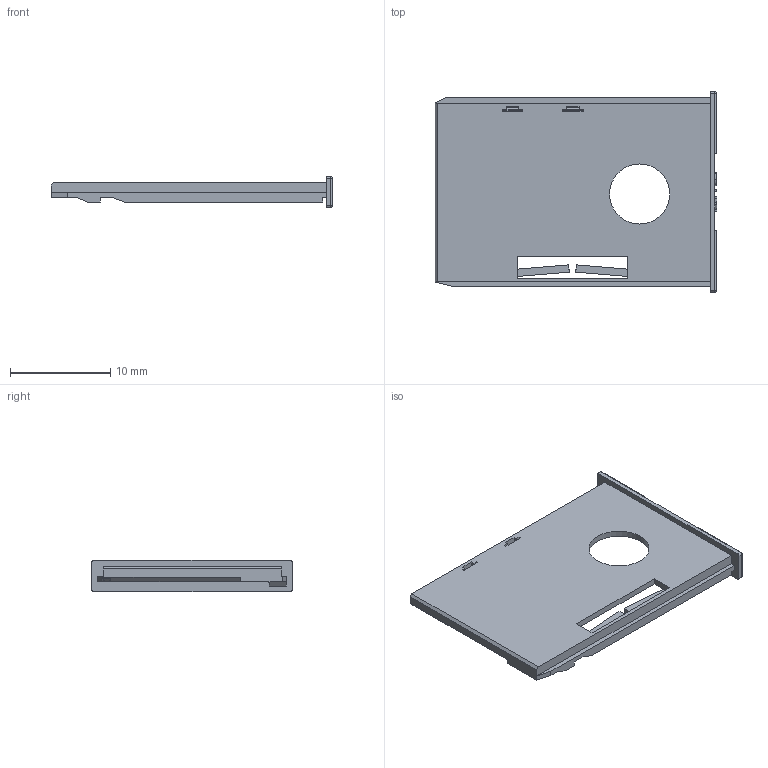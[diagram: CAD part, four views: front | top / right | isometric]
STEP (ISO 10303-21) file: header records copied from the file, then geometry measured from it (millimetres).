
FILE_DESCRIPTION (( 'STEP AP203' ), '1' );
FILE_NAME ('KF016-縐迖諉華傷赽 Asm 0906.STEP', '2023-09-06T05:41:39', ( '' ), ( '' ), 'SwSTEP 2.0', 'SolidWorks 2021', '' );
FILE_SCHEMA (( 'CONFIG_CONTROL_DESIGN' ));
Length unit declared in the file: millimetre
Products named in the file (3): KF016-諉華え; KF016-縐迖諉華傷赽 Asm 0906; SIM016-COVER_ 01_1
Assembly tree (2 placements, depth 2):
  KF016-縐迖諉華傷赽 Asm 0906
    SIM016-COVER_ 01_1
    KF016-諉華え
Bounding box: 28.1 x 20 x 3.1 mm (x, y, z)
Volume: 409.2 mm3; surface area: 1375.2 mm2
Topology: 2 solids, 2 shells, 341 faces, 930 edges, 609 vertices
Faces by surface type: plane 233, cylinder 79, bspline 29
Entity records: 11527 total; most frequent: CARTESIAN_POINT 2770, ORIENTED_EDGE 1860, DIRECTION 1581, EDGE_CURVE 930, LINE 709, VECTOR 709, VERTEX_POINT 609, AXIS2_PLACEMENT_3D 436
